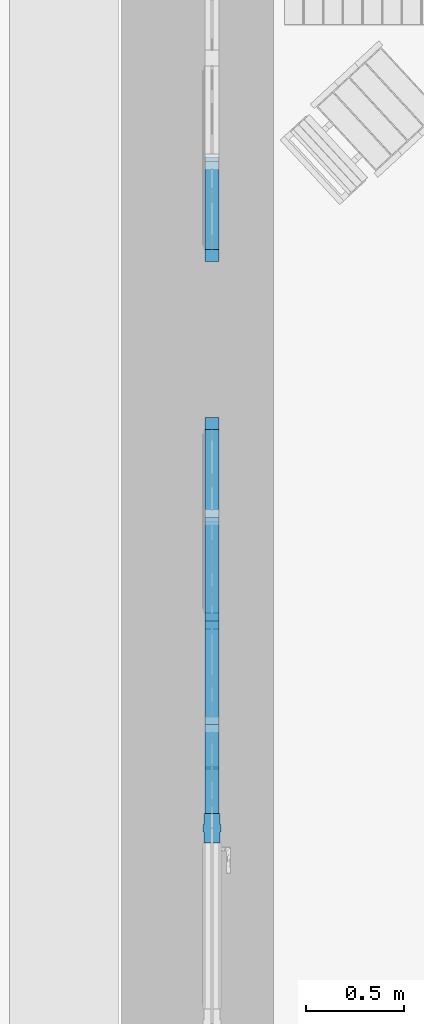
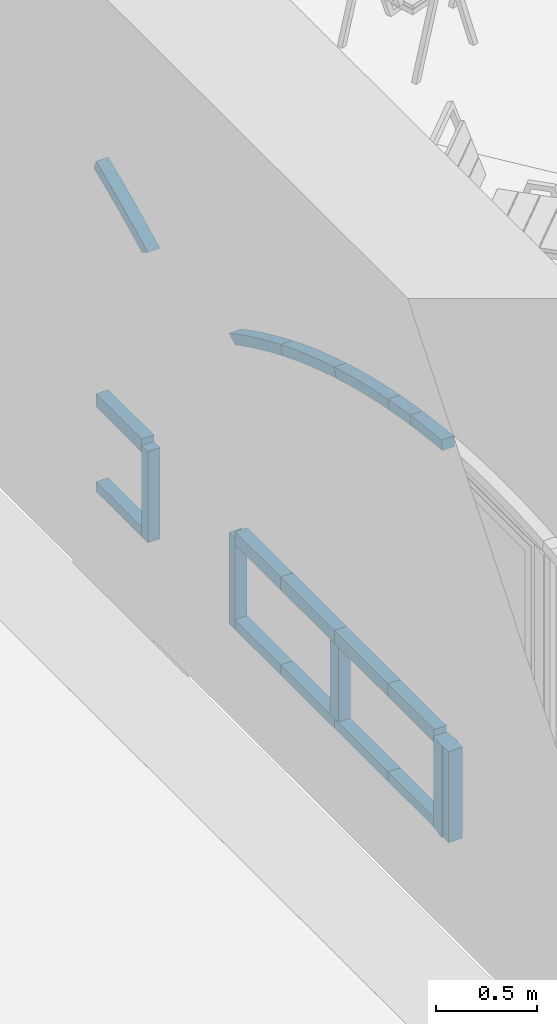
# One storey, part 17 of 88: 20 members, 2 elements without a shape of their own.
"""IFC2X3 building model written with IfcOpenShell, lengths in millimetres."""

from ifc_helpers import new_model, entity, si_unit, converted_unit, derived_unit, direction, frame, frame_2d, origin, place, context, subcontext, project, spatial, polyline, circle_curve, parameter, trimmed, segment, composite_curve, rectangle, outline, extrude, source, transform, mapped, material, type_object, type_shapes, element, aggregate, save


model = new_model("IFC2X3")

# Units and contexts
model_context = context("Model", 3, precision=0.01, world=origin(), true_north=direction((6.123031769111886e-17, 1.0)))
body_context = subcontext(model_context, "Body", "Model", "MODEL_VIEW")
ifc_project = project(units=[si_unit("LENGTHUNIT", "METRE", prefix="MILLI"), si_unit("AREAUNIT", "SQUARE_METRE"), si_unit("VOLUMEUNIT", "CUBIC_METRE"), converted_unit("PLANEANGLEUNIT", "DEGREE", entity("IfcPlaneAngleMeasure", 0.017453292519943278), si_unit("PLANEANGLEUNIT", "RADIAN"), dimensions=[0, 0, 0, 0, 0, 0, 0]), si_unit("MASSUNIT", "GRAM", prefix="KILO"), derived_unit("MASSDENSITYUNIT", [(si_unit("MASSUNIT", "GRAM", prefix="KILO"), 1), (si_unit("LENGTHUNIT", "METRE"), -3)]), derived_unit("IONCONCENTRATIONUNIT", [(si_unit("MASSUNIT", "GRAM", prefix="KILO"), 1), (si_unit("LENGTHUNIT", "METRE"), -3)]), derived_unit("MOMENTOFINERTIAUNIT", [(si_unit("LENGTHUNIT", "METRE"), 4)]), si_unit("TIMEUNIT", "SECOND"), si_unit("FREQUENCYUNIT", "HERTZ"), si_unit("THERMODYNAMICTEMPERATUREUNIT", "DEGREE_CELSIUS"), derived_unit("THERMALTRANSMITTANCEUNIT", [(si_unit("MASSUNIT", "GRAM", prefix="KILO"), 1), (si_unit("THERMODYNAMICTEMPERATUREUNIT", "KELVIN"), -1), (si_unit("TIMEUNIT", "SECOND"), -3)]), derived_unit("THERMALCONDUCTANCEUNIT", [(si_unit("MASSUNIT", "GRAM", prefix="KILO"), 1), (si_unit("THERMODYNAMICTEMPERATUREUNIT", "KELVIN"), -1), (si_unit("TIMEUNIT", "SECOND"), -3), (si_unit("LENGTHUNIT", "METRE"), 1)]), derived_unit("VOLUMETRICFLOWRATEUNIT", [(si_unit("LENGTHUNIT", "METRE", prefix="DECI"), 3), (si_unit("TIMEUNIT", "SECOND"), -1)]), derived_unit("MASSFLOWRATEUNIT", [(si_unit("MASSUNIT", "GRAM", prefix="KILO"), 1), (si_unit("TIMEUNIT", "SECOND"), -1)]), derived_unit("ROTATIONALFREQUENCYUNIT", [(si_unit("TIMEUNIT", "SECOND"), -1)]), si_unit("ELECTRICCURRENTUNIT", "AMPERE"), si_unit("ELECTRICVOLTAGEUNIT", "VOLT"), si_unit("POWERUNIT", "WATT"), si_unit("FORCEUNIT", "NEWTON", prefix="KILO"), si_unit("ILLUMINANCEUNIT", "LUX"), si_unit("LUMINOUSFLUXUNIT", "LUMEN"), si_unit("LUMINOUSINTENSITYUNIT", "CANDELA"), si_unit("ENERGYUNIT", "JOULE"), derived_unit("USERDEFINED", [(si_unit("MASSUNIT", "GRAM", prefix="KILO"), -1), (si_unit("LENGTHUNIT", "METRE"), -2), (si_unit("TIMEUNIT", "SECOND"), 3), (si_unit("LUMINOUSFLUXUNIT", "LUMEN"), 1)]), derived_unit("USERDEFINED", [(si_unit("MASSUNIT", "GRAM", prefix="KILO"), 1), (si_unit("TIMEUNIT", "SECOND"), -3), (si_unit("LENGTHUNIT", "METRE"), 3), (si_unit("ELECTRICCURRENTUNIT", "AMPERE"), -2)]), derived_unit("SOUNDPOWERUNIT", [(si_unit("MASSUNIT", "GRAM", prefix="KILO"), 1), (si_unit("TIMEUNIT", "SECOND"), -3), (si_unit("LENGTHUNIT", "METRE"), 2)]), derived_unit("SOUNDPRESSUREUNIT", [(si_unit("MASSUNIT", "GRAM", prefix="KILO"), 1), (si_unit("LENGTHUNIT", "METRE"), -1), (si_unit("TIMEUNIT", "SECOND"), -2)]), derived_unit("LINEARVELOCITYUNIT", [(si_unit("LENGTHUNIT", "METRE"), 1), (si_unit("TIMEUNIT", "SECOND"), -1)]), si_unit("PRESSUREUNIT", "PASCAL"), derived_unit("USERDEFINED", [(si_unit("MASSUNIT", "GRAM", prefix="KILO"), 1), (si_unit("LENGTHUNIT", "METRE"), -2), (si_unit("TIMEUNIT", "SECOND"), -2)]), derived_unit("LINEARFORCEUNIT", [(si_unit("MASSUNIT", "GRAM", prefix="KILO"), 1), (si_unit("TIMEUNIT", "SECOND"), -2)]), derived_unit("PLANARFORCEUNIT", [(si_unit("MASSUNIT", "GRAM", prefix="KILO"), 1), (si_unit("LENGTHUNIT", "METRE"), -1), (si_unit("TIMEUNIT", "SECOND"), -2)]), derived_unit("SPECIFICHEATCAPACITYUNIT", [(si_unit("THERMODYNAMICTEMPERATUREUNIT", "KELVIN"), -1), (si_unit("LENGTHUNIT", "METRE"), 2), (si_unit("TIMEUNIT", "SECOND"), -2)]), derived_unit("HEATFLUXDENSITYUNIT", [(si_unit("MASSUNIT", "GRAM", prefix="KILO"), 1), (si_unit("TIMEUNIT", "SECOND"), -3)]), derived_unit("HEATINGVALUEUNIT", [(si_unit("LENGTHUNIT", "METRE"), 2), (si_unit("TIMEUNIT", "SECOND"), -2)]), derived_unit("VAPORPERMEABILITYUNIT", [(si_unit("LENGTHUNIT", "METRE"), -1), (si_unit("TIMEUNIT", "SECOND"), 1)]), derived_unit("DYNAMICVISCOSITYUNIT", [(si_unit("MASSUNIT", "GRAM", prefix="KILO"), 1), (si_unit("TIMEUNIT", "SECOND"), -1), (si_unit("LENGTHUNIT", "METRE"), -1)]), derived_unit("THERMALEXPANSIONCOEFFICIENTUNIT", [(si_unit("THERMODYNAMICTEMPERATUREUNIT", "KELVIN"), -1)]), derived_unit("MODULUSOFELASTICITYUNIT", [(si_unit("MASSUNIT", "GRAM", prefix="KILO"), 1), (si_unit("LENGTHUNIT", "METRE"), -1), (si_unit("TIMEUNIT", "SECOND"), -2)]), derived_unit("ISOTHERMALMOISTURECAPACITYUNIT", [(si_unit("MASSUNIT", "GRAM", prefix="KILO"), -1), (si_unit("LENGTHUNIT", "METRE"), 3)]), derived_unit("MOISTUREDIFFUSIVITYUNIT", [(si_unit("TIMEUNIT", "SECOND"), -1), (si_unit("LENGTHUNIT", "METRE"), 2)]), derived_unit("MASSPERLENGTHUNIT", [(si_unit("MASSUNIT", "GRAM", prefix="KILO"), 1), (si_unit("LENGTHUNIT", "METRE"), -1)]), derived_unit("THERMALRESISTANCEUNIT", [(si_unit("MASSUNIT", "GRAM", prefix="KILO"), -1), (si_unit("TIMEUNIT", "SECOND"), 3), (si_unit("THERMODYNAMICTEMPERATUREUNIT", "KELVIN"), 1)]), derived_unit("ACCELERATIONUNIT", [(si_unit("LENGTHUNIT", "METRE"), 1), (si_unit("TIMEUNIT", "SECOND"), -2)]), derived_unit("ANGULARVELOCITYUNIT", [(si_unit("TIMEUNIT", "SECOND"), -1), (si_unit("PLANEANGLEUNIT", "RADIAN"), 1)]), derived_unit("LINEARSTIFFNESSUNIT", [(si_unit("MASSUNIT", "GRAM", prefix="KILO"), 1), (si_unit("TIMEUNIT", "SECOND"), -2)]), derived_unit("WARPINGCONSTANTUNIT", [(si_unit("LENGTHUNIT", "METRE"), 6)]), derived_unit("LINEARMOMENTUNIT", [(si_unit("MASSUNIT", "GRAM", prefix="KILO"), 1), (si_unit("LENGTHUNIT", "METRE"), 1), (si_unit("TIMEUNIT", "SECOND"), -2)]), derived_unit("TORQUEUNIT", [(si_unit("MASSUNIT", "GRAM", prefix="KILO"), 1), (si_unit("LENGTHUNIT", "METRE"), 2), (si_unit("TIMEUNIT", "SECOND"), -2)])], contexts=[model_context])

# Site, building, storey
site_placement = place(None, origin())
site = spatial("IfcSite", under=ifc_project, at=site_placement, Name="Default", CompositionType="ELEMENT")
building_placement = place(site_placement, origin())
building = spatial("IfcBuilding", under=site, at=building_placement, Name="Eesti Rahvusraamatukogu hoone renoveerimise projekteerimistööd", CompositionType="ELEMENT")
storey_placement = place(building_placement, origin())
storey = spatial("IfcBuildingStorey", under=building, at=storey_placement, Name="1. korrus", CompositionType="ELEMENT", Elevation=0.0)

# Curtain wall, members
curtain_wall_type_1 = type_object("IfcCurtainWallType", Name="Curtain Wall:Ak-05", PredefinedType="NOTDEFINED")
curtain_wall_1_placement = place(storey_placement, origin())
curtain_wall_1 = element("IfcCurtainWall", 1, at=curtain_wall_1_placement, inside=storey, type_object=curtain_wall_type_1, Name="Curtain Wall:Ak-05", ObjectType="Curtain Wall:Ak-05")
ifc_material = material(Name="LUMION_dark steel window frames")
member_type_1 = type_object("IfcMemberType", Name="Rectangular Mullion:NEW 60x70mm", PredefinedType="MULLION", material=ifc_material)
shared_shape_1 = source(origin(), body_context, "Body", "SweptSolid", [
    extrude(outline(composite_curve([segment(trimmed(circle_curve(frame_2d((4549.812785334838, 3066.2072493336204), x_axis=(-0.8006634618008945, -0.5991143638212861)), 5523.280566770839), [parameter(354.15250498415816)], [parameter(359.99999999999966)], True, "PARAMETER"), True, "CONTINUOUS"), segment(polyline([(127.52384624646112, -242.86947363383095), (175.56365395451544, -206.92261180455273)]), True, "CONTINUOUS"), segment(trimmed(circle_curve(frame_2d((4549.812785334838, 3066.2072493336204), x_axis=(-0.8006634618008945, -0.5991143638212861)), 5463.280566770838), [parameter(354.53073311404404)], [parameter(359.99999999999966)], True, "PARAMETER"), False, "CONTINUOUS"), segment(polyline([(-116.49037438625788, 224.89604271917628), (-186.59712581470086, 224.89604271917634)]), True, "CONTINUOUS")], self_intersect=False)), frame((-43.402905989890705, -35.0, -270.85808154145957), z_axis=(0.0, -1.0, 0.0), x_axis=(-0.800663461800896, 0.0, 0.5991143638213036)), (0.0, 0.0, -1.0), 69.99999999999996),
])
type_shapes(member_type_1, [shared_shape_1])
member_1_placement = place(curtain_wall_1_placement, frame((-42905.0, 5480.0, 1939.3047106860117), z_axis=(0.0, -0.925642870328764, 0.3783983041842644), x_axis=(0.0, 0.3783983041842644, 0.925642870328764)))
member_1 = element("IfcMember", 2, at=member_1_placement, type_object=member_type_1, material=ifc_material, Name="Rectangular Mullion:NEW 60x70mm", ObjectType="Rectangular Mullion:NEW 60x70mm", context=body_context, shape_type="MappedRepresentation", body=[
    mapped(shared_shape_1, transform((0.0, 0.0, 0.0), scale=1.0)),
])
member_type_2 = type_object("IfcMemberType", Name="Rectangular Mullion:NEW 60x70mm", PredefinedType="MULLION", material=ifc_material)
shared_shape_2 = source(origin(), body_context, "Body", "SweptSolid", [
    extrude(outline(composite_curve([segment(polyline([(-44.19959331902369, -278.9278071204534), (15.8004066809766, -278.92780712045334)]), True, "CONTINUOUS"), segment(trimmed(circle_curve(frame_2d((5479.0809734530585, -278.9278071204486), x_axis=(-0.9948301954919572, 0.10155236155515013)), 5463.28056677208), [parameter(3.5622212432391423e-13)], [parameter(5.828569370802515)], True, "PARAMETER"), False, "CONTINUOUS"), segment(polyline([(44.04449918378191, 275.88123627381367), (-15.645312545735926, 281.97437796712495)]), True, "CONTINUOUS"), segment(trimmed(circle_curve(frame_2d((5479.0809734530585, -278.9278071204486), x_axis=(-0.9948301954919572, 0.10155236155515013)), 5523.28056677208), [parameter(3.5622212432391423e-13)], [parameter(5.828569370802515)], True, "PARAMETER"), True, "CONTINUOUS")], self_intersect=False)), frame((-44.199593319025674, -35.0, -278.9278071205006), z_axis=(0.0, 1.0, 0.0), x_axis=(-0.994830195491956, 0.0, 0.1015523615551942)), (0.0, 0.0, 1.0), 70.0),
])
type_shapes(member_type_2, [shared_shape_2])
member_2_placement = place(curtain_wall_1_placement, frame((-42905.0, 4950.0, 2125.118079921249), z_axis=(0.0, -0.9592847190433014, 0.28244083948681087), x_axis=(0.0, 0.28244083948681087, 0.9592847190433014)))
member_2 = element("IfcMember", 3, at=member_2_placement, type_object=member_type_2, material=ifc_material, Name="Rectangular Mullion:NEW 60x70mm", ObjectType="Rectangular Mullion:NEW 60x70mm", context=body_context, shape_type="MappedRepresentation", body=[
    mapped(shared_shape_2, transform((0.0, 0.0, 0.0), scale=1.0)),
])
member_type_3 = type_object("IfcMemberType", Name="Rectangular Mullion:NEW 60x70mm", PredefinedType="MULLION", material=ifc_material)
shared_shape_3 = source(origin(), body_context, "Body", "SweptSolid", [
    extrude(outline(composite_curve([segment(polyline([(-43.38278695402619, -270.80676601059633), (16.61721304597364, -270.8067660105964)]), True, "CONTINUOUS"), segment(trimmed(circle_curve(frame_2d((5479.897779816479, -270.8067660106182), x_axis=(-0.9951275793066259, 0.0985956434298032)), 5463.280566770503), [parameter(3.5622212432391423e-13)], [parameter(5.658307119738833)], True, "PARAMETER"), False, "CONTINUOUS"), segment(polyline([(43.23661433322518, 267.848896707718), (-16.471040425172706, 273.76463531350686)]), True, "CONTINUOUS"), segment(trimmed(circle_curve(frame_2d((5479.897779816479, -270.8067660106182), x_axis=(-0.9951275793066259, 0.0985956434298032)), 5523.280566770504), [parameter(3.5622212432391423e-13)], [parameter(5.658307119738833)], True, "PARAMETER"), True, "CONTINUOUS")], self_intersect=False)), frame((-43.38278695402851, -35.0, -270.8067660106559), z_axis=(0.0, 1.0, 0.0), x_axis=(-0.9951275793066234, 0.0, 0.09859564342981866)), (0.0, 0.0, 1.0), 69.99999999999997),
])
type_shapes(member_type_3, [shared_shape_3])
member_3_placement = place(curtain_wall_1_placement, frame((-42905.0, 4420.0, 2253.1112564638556), z_axis=(0.0, -0.9824581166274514, 0.1864833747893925), x_axis=(0.0, 0.1864833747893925, 0.9824581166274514)))
member_3 = element("IfcMember", 4, at=member_3_placement, type_object=member_type_3, material=ifc_material, Name="Rectangular Mullion:NEW 60x70mm", ObjectType="Rectangular Mullion:NEW 60x70mm", context=body_context, shape_type="MappedRepresentation", body=[
    mapped(shared_shape_3, transform((0.0, 0.0, 0.0), scale=1.0)),
])
member_type_4 = type_object("IfcMemberType", Name="Rectangular Mullion:NEW 60x70mm", PredefinedType="MULLION", material=ifc_material)
shared_shape_4 = source(origin(), body_context, "Body", "SweptSolid", [
    extrude(outline(composite_curve([segment(polyline([(-34.44225079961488, -156.14991642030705), (25.5577492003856, -156.14991642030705)]), True, "CONTINUOUS"), segment(trimmed(circle_curve(frame_2d((5488.8383159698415, -156.14991642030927), x_axis=(-0.9983826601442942, 0.05685124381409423)), 5463.280566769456), [parameter(3.5622212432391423e-13)], [parameter(3.2590935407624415)], True, "PARAMETER"), False, "CONTINUOUS"), segment(polyline([(34.393730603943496, 154.44437910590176), (-25.509229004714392, 157.8554537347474)]), True, "CONTINUOUS"), segment(trimmed(circle_curve(frame_2d((5488.8383159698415, -156.14991642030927), x_axis=(-0.9983826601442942, 0.05685124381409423)), 5523.280566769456), [parameter(3.5622212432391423e-13)], [parameter(3.2590935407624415)], True, "PARAMETER"), True, "CONTINUOUS")], self_intersect=False)), frame((-34.44225079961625, -35.0, -156.14991642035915), z_axis=(0.0, 1.0, 0.0), x_axis=(-0.9983826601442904, 0.0, 0.056851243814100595)), (0.0, 0.0, 1.0), 69.99999999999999),
])
type_shapes(member_type_4, [shared_shape_4])
member_4_placement = place(curtain_wall_1_placement, frame((-42905.0, 3890.0, 2327.3219656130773), z_axis=(0.0, -0.9958941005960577, 0.09052591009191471), x_axis=(0.0, 0.09052591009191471, 0.9958941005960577)))
member_4 = element("IfcMember", 5, at=member_4_placement, type_object=member_type_4, material=ifc_material, Name="Rectangular Mullion:NEW 60x70mm", ObjectType="Rectangular Mullion:NEW 60x70mm", context=body_context, shape_type="MappedRepresentation", body=[
    mapped(shared_shape_4, transform((0.0, 0.0, 0.0), scale=1.0)),
])

# Curtain wall, member
curtain_wall_type_2 = type_object("IfcCurtainWallType", Name="Curtain Wall:Ak-05*", PredefinedType="NOTDEFINED")
curtain_wall_2_placement = place(storey_placement, origin())
curtain_wall_2 = element("IfcCurtainWall", 6, at=curtain_wall_2_placement, inside=storey, type_object=curtain_wall_type_2, Name="Curtain Wall:Ak-05*", ObjectType="Curtain Wall:Ak-05*")
member_type_5 = type_object("IfcMemberType", Name="Rectangular Mullion:NEW 60x70mm", PredefinedType="MULLION", material=ifc_material)
shared_shape_5 = source(origin(), body_context, "Body", "SweptSolid", [
    extrude(outline(composite_curve([segment(polyline([(-43.402905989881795, -270.8580815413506), (16.59709401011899, -270.85808154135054)]), True, "CONTINUOUS"), segment(trimmed(circle_curve(frame_2d((5479.877660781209, -270.8580815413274), x_axis=(-0.9947965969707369, 0.10188096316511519)), 5463.280566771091), [parameter(0.37822812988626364)], [parameter(5.847495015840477)], True, "PARAMETER"), False, "CONTINUOUS"), segment(polyline([(41.46886313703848, 249.85710065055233), (-14.66305115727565, 291.85906243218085)]), True, "CONTINUOUS"), segment(trimmed(circle_curve(frame_2d((5479.877660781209, -270.8580815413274), x_axis=(-0.9947965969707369, 0.10188096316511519)), 5523.280566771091), [parameter(3.5622212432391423e-13)], [parameter(5.847495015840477)], True, "PARAMETER"), True, "CONTINUOUS")], self_intersect=False)), frame((-44.32163578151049, -35.0, -288.84651632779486), z_axis=(0.0, 1.0, 0.0), x_axis=(-0.9947965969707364, 0.0, 0.10188096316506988)), (0.0, 0.0, 1.0), 69.99999999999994),
])
type_shapes(member_type_5, [shared_shape_5])
member_5_placement = place(curtain_wall_2_placement, frame((-42905.0, 6790.0, 1699.7706559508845), z_axis=(0.0, -0.8822747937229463, -0.4707347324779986), x_axis=(0.0, -0.4707347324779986, 0.8822747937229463)))
member_5 = element("IfcMember", 7, at=member_5_placement, type_object=member_type_5, material=ifc_material, Name="Rectangular Mullion:NEW 60x70mm", ObjectType="Rectangular Mullion:NEW 60x70mm", context=body_context, shape_type="MappedRepresentation", body=[
    mapped(shared_shape_5, transform((0.0, 0.0, 0.0), scale=1.0)),
])

# Member
member_type_6 = type_object("IfcMemberType", Name="Rectangular Mullion:NEW 150x90mm", PredefinedType="MULLION", material=ifc_material)
shared_shape_6 = source(origin(), body_context, "Body", "SweptSolid", [
    extrude(outline(polyline([(40.0, -20.0), (45.0, -20.0), (45.0, 20.0), (40.0, 20.0), (40.0, 75.0), (-40.0, 75.0), (-40.0, 20.0), (-45.0, 20.0), (-45.0, -20.0), (-40.0, -20.0), (-40.0, -75.0), (40.0, -75.0), (40.0, -20.0)])), frame((0.0, 0.0, -550.0), z_axis=(0.0, 0.0, 1.0), x_axis=(0.0, -1.0, 0.0)), (0.0, 0.0, 1.0), 550.0000000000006),
])
type_shapes(member_type_6, [shared_shape_6])
member_6_placement = place(curtain_wall_1_placement, frame((-42905.0, 3890.0, -50.0), z_axis=(0.0, 0.0, -1.0), x_axis=(0.0, -1.0, 0.0)))
member_6 = element("IfcMember", 8, at=member_6_placement, type_object=member_type_6, material=ifc_material, Name="Rectangular Mullion:NEW 150x90mm", ObjectType="Rectangular Mullion:NEW 150x90mm", context=body_context, shape_type="MappedRepresentation", body=[
    mapped(shared_shape_6, transform((0.0, 0.0, 0.0), scale=1.0)),
])

member_type_7 = type_object("IfcMemberType", Name="Rectangular Mullion:NEW 80x70mm", PredefinedType="MULLION", material=ifc_material)
shared_shape_7 = source(origin(), body_context, "Body", "SweptSolid", [
    extrude(rectangle(XDim=80.0, YDim=70.0, at=frame_2d((0.0, -3.552713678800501e-15), x_axis=(1.0, 0.0))), frame((0.0, 0.0, -450.0), z_axis=(0.0, 0.0, 1.0), x_axis=(-1.0, 0.0, 0.0)), (0.0, 0.0, 1.0), 449.9999999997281),
])
type_shapes(member_type_7, [shared_shape_7])
member_7_placement = place(curtain_wall_2_placement, frame((-42905.0, 6850.0, 500.0), z_axis=(0.0, -1.0, 0.0), x_axis=(0.0, 0.0, 1.0)))
member_7 = element("IfcMember", 9, at=member_7_placement, type_object=member_type_7, material=ifc_material, Name="Rectangular Mullion:NEW 80x70mm", ObjectType="Rectangular Mullion:NEW 80x70mm", context=body_context, shape_type="MappedRepresentation", body=[
    mapped(shared_shape_7, transform((0.0, 0.0, 0.0), scale=1.0)),
])

member_type_8 = type_object("IfcMemberType", Name="Rectangular Mullion:NEW 80x70mm", PredefinedType="MULLION", material=ifc_material)
shared_shape_8 = source(origin(), body_context, "Body", "SweptSolid", [
    extrude(rectangle(XDim=80.0, YDim=70.0, at=frame_2d((0.0, -3.552713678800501e-15), x_axis=(1.0, 0.0))), frame((0.0, 0.0, -530.0), z_axis=(0.0, 0.0, 1.0), x_axis=(-1.0, 0.0, 0.0)), (0.0, 0.0, 1.0), 530.0000000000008),
])
type_shapes(member_type_8, [shared_shape_8])
member_8_placement = place(curtain_wall_1_placement, frame((-42905.0, 4950.0, 500.0), z_axis=(0.0, -1.0, 0.0), x_axis=(0.0, 0.0, 1.0)))
member_8 = element("IfcMember", 10, at=member_8_placement, type_object=member_type_8, material=ifc_material, Name="Rectangular Mullion:NEW 80x70mm", ObjectType="Rectangular Mullion:NEW 80x70mm", context=body_context, shape_type="MappedRepresentation", body=[
    mapped(shared_shape_8, transform((0.0, 0.0, 0.0), scale=1.0)),
])

member_9_placement = place(curtain_wall_1_placement, frame((-42905.0, 4420.0, 500.0), z_axis=(0.0, -1.0, 0.0), x_axis=(0.0, 0.0, 1.0)))
member_9 = element("IfcMember", 11, at=member_9_placement, type_object=member_type_8, material=ifc_material, Name="Rectangular Mullion:NEW 80x70mm", ObjectType="Rectangular Mullion:NEW 80x70mm", context=body_context, shape_type="MappedRepresentation", body=[
    mapped(shared_shape_8, transform((0.0, 0.0, 0.0), scale=1.0)),
])

member_type_9 = type_object("IfcMemberType", Name="Rectangular Mullion:NEW 80x70mm", PredefinedType="MULLION", material=ifc_material)
shared_shape_9 = source(origin(), body_context, "Body", "SweptSolid", [
    extrude(rectangle(XDim=80.0, YDim=70.0, at=frame_2d((0.0, -3.552713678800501e-15), x_axis=(1.0, 0.0))), frame((0.0, 0.0, -455.0), z_axis=(0.0, 0.0, 1.0), x_axis=(-1.0, 0.0, 0.0)), (0.0, 0.0, 1.0), 455.0000000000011),
])
type_shapes(member_type_9, [shared_shape_9])
member_10_placement = place(curtain_wall_1_placement, frame((-42905.0, 3965.0, 500.0), z_axis=(0.0, -1.0, 0.0), x_axis=(0.0, 0.0, 1.0)))
member_10 = element("IfcMember", 12, at=member_10_placement, type_object=member_type_9, material=ifc_material, Name="Rectangular Mullion:NEW 80x70mm", ObjectType="Rectangular Mullion:NEW 80x70mm", context=body_context, shape_type="MappedRepresentation", body=[
    mapped(shared_shape_9, transform((0.0, 0.0, 0.0), scale=1.0)),
])

member_type_10 = type_object("IfcMemberType", Name="Rectangular Mullion:NEW 80x70mm", PredefinedType="MULLION", material=ifc_material)
shared_shape_10 = source(origin(), body_context, "Body", "SweptSolid", [
    extrude(rectangle(XDim=80.0, YDim=70.0, at=frame_2d((0.0, -3.552713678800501e-15), x_axis=(1.0, 0.0))), frame((0.0, 0.0, -450.0), z_axis=(0.0, 0.0, 1.0), x_axis=(-1.0, 0.0, 0.0)), (0.0, 0.0, 1.0), 449.9999999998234),
])
type_shapes(member_type_10, [shared_shape_10])
member_11_placement = place(curtain_wall_1_placement, frame((-42905.0, 5480.0, 500.0), z_axis=(0.0, -1.0, 0.0), x_axis=(0.0, 0.0, 1.0)))
member_11 = element("IfcMember", 13, at=member_11_placement, type_object=member_type_10, material=ifc_material, Name="Rectangular Mullion:NEW 80x70mm", ObjectType="Rectangular Mullion:NEW 80x70mm", context=body_context, shape_type="MappedRepresentation", body=[
    mapped(shared_shape_10, transform((0.0, 0.0, 0.0), scale=1.0)),
])

member_type_11 = type_object("IfcMemberType", Name="Rectangular Mullion:NEW 80x70mm", PredefinedType="MULLION", material=ifc_material)
shared_shape_11 = source(origin(), body_context, "Body", "SweptSolid", [
    extrude(rectangle(XDim=80.0, YDim=70.0, at=frame_2d((0.0, 3.552713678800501e-15), x_axis=(1.0, 0.0))), frame((0.0, 0.0, -450.0), z_axis=(0.0, 0.0, 1.0), x_axis=(-1.0, 0.0, 0.0)), (0.0, 0.0, 1.0), 450.00000000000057),
])
type_shapes(member_type_11, [shared_shape_11])
member_12_placement = place(curtain_wall_1_placement, frame((-42905.0, 4950.0, 10.0), z_axis=(0.0, 0.0, -1.0), x_axis=(0.0, -1.0, 0.0)))
member_12 = element("IfcMember", 14, at=member_12_placement, type_object=member_type_11, material=ifc_material, Name="Rectangular Mullion:NEW 80x70mm", ObjectType="Rectangular Mullion:NEW 80x70mm", context=body_context, shape_type="MappedRepresentation", body=[
    mapped(shared_shape_11, transform((0.0, 0.0, 0.0), scale=1.0)),
])

member_type_12 = type_object("IfcMemberType", Name="Rectangular Mullion:NEW 60x70mm", PredefinedType="MULLION", material=ifc_material)
shared_shape_12 = source(origin(), body_context, "Body", "SweptSolid", [
    extrude(rectangle(XDim=60.0, YDim=70.0, at=frame_2d((0.0, 3.552713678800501e-15), x_axis=(1.0, 0.0))), frame((-30.0, 0.0, -550.0), z_axis=(0.0, 0.0, 1.0), x_axis=(-1.0, 0.0, 0.0)), (0.0, 0.0, 1.0), 550.0000000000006),
])
type_shapes(member_type_12, [shared_shape_12])
member_13_placement = place(curtain_wall_2_placement, frame((-42905.0, 6790.0, -50.0), z_axis=(0.0, 0.0, -1.0), x_axis=(0.0, -1.0, 0.0)))
member_13 = element("IfcMember", 15, at=member_13_placement, type_object=member_type_12, material=ifc_material, Name="Rectangular Mullion:NEW 60x70mm", ObjectType="Rectangular Mullion:NEW 60x70mm", context=body_context, shape_type="MappedRepresentation", body=[
    mapped(shared_shape_12, transform((0.0, 0.0, 0.0), scale=1.0)),
])

member_type_13 = type_object("IfcMemberType", Name="Rectangular Mullion:NEW 60x70mm", PredefinedType="MULLION", material=ifc_material)
shared_shape_13 = source(origin(), body_context, "Body", "SweptSolid", [
    extrude(rectangle(XDim=60.0, YDim=70.0, at=frame_2d((0.0, 3.552713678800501e-15), x_axis=(1.0, 0.0))), frame((-30.0, 0.0, -550.0), z_axis=(0.0, 0.0, 1.0), x_axis=(-1.0, 0.0, 0.0)), (0.0, 0.0, 1.0), 550.0000000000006),
])
type_shapes(member_type_13, [shared_shape_13])
member_14_placement = place(curtain_wall_1_placement, frame((-42905.0, 5990.0, 500.0), z_axis=(0.0, 0.0, 1.0), x_axis=(0.0, 1.0, 0.0)))
member_14 = element("IfcMember", 16, at=member_14_placement, type_object=member_type_13, material=ifc_material, Name="Rectangular Mullion:NEW 60x70mm", ObjectType="Rectangular Mullion:NEW 60x70mm", context=body_context, shape_type="MappedRepresentation", body=[
    mapped(shared_shape_13, transform((0.0, 0.0, 0.0), scale=1.0)),
])

member_type_14 = type_object("IfcMemberType", Name="Rectangular Mullion:NEW 60x70mm", PredefinedType="MULLION", material=ifc_material)
shared_shape_14 = source(origin(), body_context, "Body", "SweptSolid", [
    extrude(rectangle(XDim=60.0, YDim=70.0, at=frame_2d((0.0, 3.552713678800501e-15), x_axis=(1.0, 0.0))), frame((-30.0, 0.0, -450.0), z_axis=(0.0, 0.0, 1.0), x_axis=(-1.0, 0.0, 0.0)), (0.0, 0.0, 1.0), 449.9999999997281),
])
type_shapes(member_type_14, [shared_shape_14])
member_15_placement = place(curtain_wall_2_placement, frame((-42905.0, 7300.0, -50.0), z_axis=(0.0, 1.0, 0.0), x_axis=(0.0, 0.0, -1.0)))
member_15 = element("IfcMember", 17, at=member_15_placement, type_object=member_type_14, material=ifc_material, Name="Rectangular Mullion:NEW 60x70mm", ObjectType="Rectangular Mullion:NEW 60x70mm", context=body_context, shape_type="MappedRepresentation", body=[
    mapped(shared_shape_14, transform((0.0, 0.0, 0.0), scale=1.0)),
])

aggregate(curtain_wall_2, [member_5, member_7, member_13, member_15])

member_type_15 = type_object("IfcMemberType", Name="Rectangular Mullion:NEW 60x70mm", PredefinedType="MULLION", material=ifc_material)
shared_shape_15 = source(origin(), body_context, "Body", "SweptSolid", [
    extrude(rectangle(XDim=60.0, YDim=70.0, at=frame_2d((0.0, 3.552713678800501e-15), x_axis=(1.0, 0.0))), frame((-30.0, 0.0, -530.0), z_axis=(0.0, 0.0, 1.0), x_axis=(-1.0, 0.0, 0.0)), (0.0, 0.0, 1.0), 530.0000000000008),
])
type_shapes(member_type_15, [shared_shape_15])
member_16_placement = place(curtain_wall_1_placement, frame((-42905.0, 4950.0, -50.0), z_axis=(0.0, 1.0, 0.0), x_axis=(0.0, 0.0, -1.0)))
member_16 = element("IfcMember", 18, at=member_16_placement, type_object=member_type_15, material=ifc_material, Name="Rectangular Mullion:NEW 60x70mm", ObjectType="Rectangular Mullion:NEW 60x70mm", context=body_context, shape_type="MappedRepresentation", body=[
    mapped(shared_shape_15, transform((0.0, 0.0, 0.0), scale=1.0)),
])

member_type_16 = type_object("IfcMemberType", Name="Rectangular Mullion:NEW 60x70mm", PredefinedType="MULLION", material=ifc_material)
shared_shape_16 = source(origin(), body_context, "Body", "SweptSolid", [
    extrude(rectangle(XDim=60.0, YDim=70.0, at=frame_2d((0.0, 3.552713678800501e-15), x_axis=(1.0, 0.0))), frame((-30.0, 0.0, -530.0), z_axis=(0.0, 0.0, 1.0), x_axis=(-1.0, 0.0, 0.0)), (0.0, 0.0, 1.0), 530.0000000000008),
])
type_shapes(member_type_16, [shared_shape_16])
member_17_placement = place(curtain_wall_1_placement, frame((-42905.0, 5480.0, -50.0), z_axis=(0.0, 1.0, 0.0), x_axis=(0.0, 0.0, -1.0)))
member_17 = element("IfcMember", 19, at=member_17_placement, type_object=member_type_16, material=ifc_material, Name="Rectangular Mullion:NEW 60x70mm", ObjectType="Rectangular Mullion:NEW 60x70mm", context=body_context, shape_type="MappedRepresentation", body=[
    mapped(shared_shape_16, transform((0.0, 0.0, 0.0), scale=1.0)),
])

member_type_17 = type_object("IfcMemberType", Name="Rectangular Mullion:NEW 60x70mm", PredefinedType="MULLION", material=ifc_material)
shared_shape_17 = source(origin(), body_context, "Body", "SweptSolid", [
    extrude(rectangle(XDim=60.0, YDim=70.0, at=frame_2d((0.0, 3.552713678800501e-15), x_axis=(1.0, 0.0))), frame((-30.0, 0.0, -455.0), z_axis=(0.0, 0.0, 1.0), x_axis=(-1.0, 0.0, 0.0)), (0.0, 0.0, 1.0), 455.0000000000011),
])
type_shapes(member_type_17, [shared_shape_17])
member_18_placement = place(curtain_wall_1_placement, frame((-42905.0, 4420.0, -50.0), z_axis=(0.0, 1.0, 0.0), x_axis=(0.0, 0.0, -1.0)))
member_18 = element("IfcMember", 20, at=member_18_placement, type_object=member_type_17, material=ifc_material, Name="Rectangular Mullion:NEW 60x70mm", ObjectType="Rectangular Mullion:NEW 60x70mm", context=body_context, shape_type="MappedRepresentation", body=[
    mapped(shared_shape_17, transform((0.0, 0.0, 0.0), scale=1.0)),
])

member_type_18 = type_object("IfcMemberType", Name="Rectangular Mullion:NEW 60x70mm", PredefinedType="MULLION", material=ifc_material)
shared_shape_18 = source(origin(), body_context, "Body", "SweptSolid", [
    extrude(rectangle(XDim=60.0, YDim=70.0, at=frame_2d((0.0, 3.552713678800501e-15), x_axis=(1.0, 0.0))), frame((-30.0, 0.0, -450.0), z_axis=(0.0, 0.0, 1.0), x_axis=(-1.0, 0.0, 0.0)), (0.0, 0.0, 1.0), 449.9999999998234),
])
type_shapes(member_type_18, [shared_shape_18])
member_19_placement = place(curtain_wall_1_placement, frame((-42905.0, 5930.0, -50.0), z_axis=(0.0, 1.0, 0.0), x_axis=(0.0, 0.0, -1.0)))
member_19 = element("IfcMember", 21, at=member_19_placement, type_object=member_type_18, material=ifc_material, Name="Rectangular Mullion:NEW 60x70mm", ObjectType="Rectangular Mullion:NEW 60x70mm", context=body_context, shape_type="MappedRepresentation", body=[
    mapped(shared_shape_18, transform((0.0, 0.0, 0.0), scale=1.0)),
])

member_type_19 = type_object("IfcMemberType", Name="Rectangular Mullion:NEW 60x70mm", PredefinedType="MULLION", material=ifc_material)
shared_shape_19 = source(origin(), body_context, "Body", "SweptSolid", [
    extrude(outline(composite_curve([segment(polyline([(-32.202468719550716, -109.97239538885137), (27.79753128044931, -109.97239538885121)]), True, "CONTINUOUS"), segment(trimmed(circle_curve(frame_2d((5491.078098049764, -109.97239538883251), x_axis=(-0.9991981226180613, 0.04003887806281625)), 5463.280566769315), [parameter(3.5622212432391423e-13)], [parameter(2.294672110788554)], True, "PARAMETER"), False, "CONTINUOUS"), segment(polyline([(32.17841239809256, 108.77122904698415), (-27.773474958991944, 111.17356173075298)]), True, "CONTINUOUS"), segment(trimmed(circle_curve(frame_2d((5491.078098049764, -109.97239538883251), x_axis=(-0.9991981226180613, 0.04003887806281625)), 5523.280566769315), [parameter(3.5622212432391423e-13)], [parameter(2.294672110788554)], True, "PARAMETER"), True, "CONTINUOUS")], self_intersect=False)), frame((-32.202468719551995, -35.0, -109.97239538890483), z_axis=(0.0, 1.0, 0.0), x_axis=(-0.9991981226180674, 0.0, 0.04003887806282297)), (0.0, 0.0, 1.0), 69.99999999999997),
])
type_shapes(member_type_19, [shared_shape_19])
member_20_placement = place(curtain_wall_1_placement, frame((-42905.0, 4201.907425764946, 2290.0), z_axis=(0.0, -0.9891368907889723, 0.14699731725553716), x_axis=(0.0, 0.14699731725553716, 0.9891368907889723)))
member_20 = element("IfcMember", 22, at=member_20_placement, type_object=member_type_19, material=ifc_material, Name="Rectangular Mullion:NEW 60x70mm", ObjectType="Rectangular Mullion:NEW 60x70mm", context=body_context, shape_type="MappedRepresentation", body=[
    mapped(shared_shape_19, transform((0.0, 0.0, 0.0), scale=1.0)),
])

aggregate(curtain_wall_1, [member_1, member_2, member_3, member_4, member_6, member_8, member_9, member_10, member_11, member_12, member_14, member_17, member_16, member_18, member_19, member_20])

save(model, "model.ifc")
